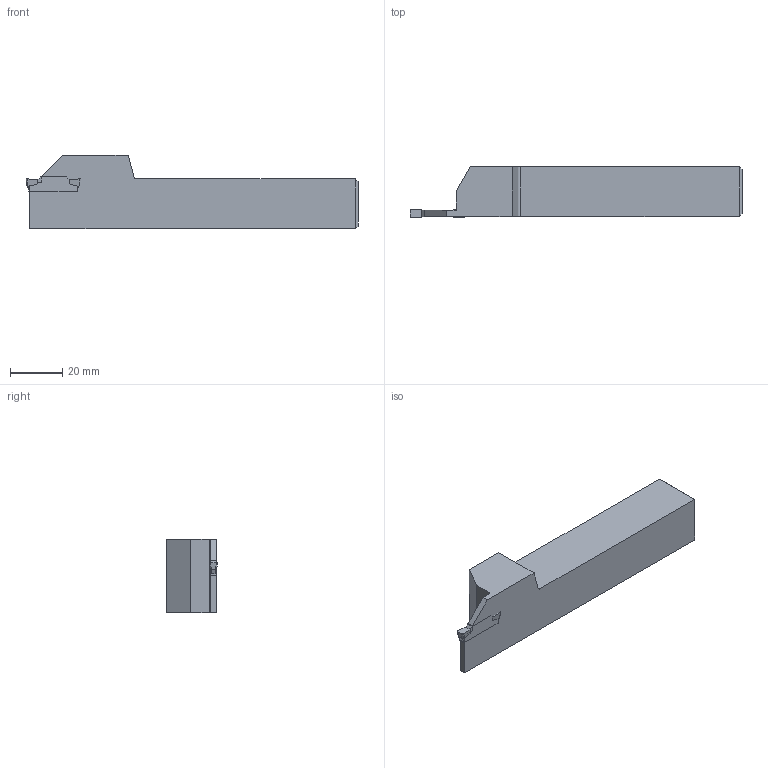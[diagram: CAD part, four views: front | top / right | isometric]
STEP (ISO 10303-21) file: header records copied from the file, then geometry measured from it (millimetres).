
FILE_DESCRIPTION(/* description */ (''),/* implementation_level */ '2;1');
FILE_NAME(/* name */ 'MGEHR12-3-HAAS_20200625.stp',/* time_stamp */ '2020-11-18T16:33:08+09:00',/* author */ (''),/* organization */ (''),/* preprocessor_version */ 'ST-DEVELOPER v11',/* originating_system */ 'SIEMENS UGS NX 6.0',/* authorisation */ '');
FILE_SCHEMA (('CONFIG_CONTROL_DESIGN'));
Length unit declared in the file: millimetre
Products named in the file (1): user1992z9ws
Bounding box: 127 x 19.4 x 28.05 mm (x, y, z)
Volume: 43891.2 mm3; surface area: 10693.7 mm2
Topology: 2 solids, 2 shells, 54 faces, 142 edges, 92 vertices
Faces by surface type: plane 40, cylinder 10, extrusion 4
Entity records: 1784 total; most frequent: CARTESIAN_POINT 359, ORIENTED_EDGE 284, DIRECTION 264, EDGE_CURVE 142, VECTOR 114, LINE 110, VERTEX_POINT 92, AXIS2_PLACEMENT_3D 75
